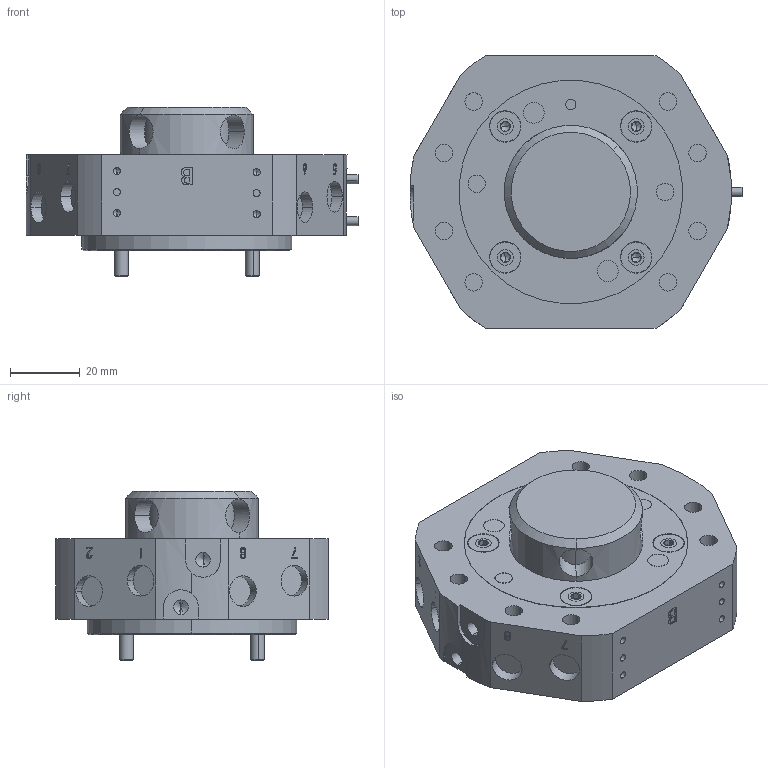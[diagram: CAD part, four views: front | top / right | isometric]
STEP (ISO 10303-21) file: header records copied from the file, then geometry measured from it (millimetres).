
FILE_DESCRIPTION (( 'STEP AP203' ), '1' );
FILE_NAME ('QTC25-M.STEP', '2025-09-29T05:20:18', ( 'USER-' ), ( 'Microsoft' ), 'SwSTEP 2.0', 'SolidWorks 2018', '' );
FILE_SCHEMA (( 'CONFIG_CONTROL_DESIGN' ));
Length unit declared in the file: millimetre
Products named in the file (6): 4mm眻噤換覜ん; QTC25-M-15 換覜ん揤輸-1; QTC25-M-03 鼠攫詩迖; 内六角沉头螺钉[GBT70_3-2008][M4×35×20]; QTC25-M-01 鼠攫翋釱; QTC25-M
Assembly tree (9 placements, depth 2):
  QTC25-M
    QTC25-M-01 鼠攫翋釱
    QTC25-M-03 鼠攫詩迖
    内六角沉头螺钉[GBT70_3-2008][M4×35×20]  x4
    QTC25-M-15 換覜ん揤輸-1
    4mm眻噤換覜ん  x2
Bounding box: 95 x 78 x 48.5 mm (x, y, z)
Volume: 160911.9 mm3; surface area: 34784 mm2
Topology: 9 solids, 9 shells, 478 faces, 1131 edges, 700 vertices
Faces by surface type: cylinder 169, plane 169, cone 96, bspline 36, torus 8
Entity records: 16636 total; most frequent: CARTESIAN_POINT 6893, ORIENTED_EDGE 1844, DIRECTION 1816, EDGE_CURVE 922, AXIS2_PLACEMENT_3D 662, VERTEX_POINT 599, LINE 492, VECTOR 492
